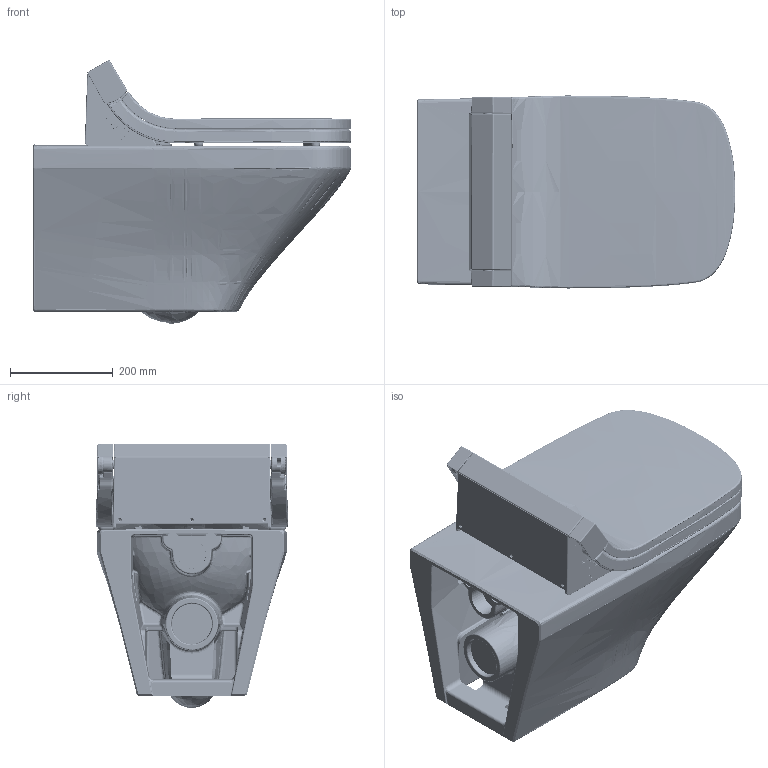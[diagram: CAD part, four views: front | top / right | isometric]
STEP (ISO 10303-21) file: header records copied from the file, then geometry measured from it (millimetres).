
FILE_DESCRIPTION((''),'2;1');
FILE_NAME('C:\Users\Administrator\Desktop\NEWS 2013 Step 2\DuraStyle Keramik Step 2\3d\stp\254259_610200.stp','2013-10-10T11:16:24',('Administrator'),(''),'Autodesk Inventor 2011','Autodesk Inventor 2011','');
FILE_SCHEMA(('CONFIG_CONTROL_DESIGN'));
Length unit declared in the file: millimetre
Products named in the file (16): 254259_610200; 254259; 610200; CASE-ASSY_ASM; BODY-CASE; DECORATIVE-COVER; 1F219-01-01; SEAT_ASM; 1F221-A0-01; 1F221-B0-01; 1F218-B0-01; INFRARED-LEFT; BUTTON-MEMBRANE; HINGE-COVER-L; HINGE-COVER-R; LID-CUSHION
Assembly tree (19 placements, depth 5):
  254259_610200
    254259
    610200
      CASE-ASSY_ASM
        BODY-CASE
        DECORATIVE-COVER
        1F219-01-01
        SEAT_ASM
          1F221-A0-01
          1F221-B0-01
          1F218-B0-01
        INFRARED-LEFT
        BUTTON-MEMBRANE
        HINGE-COVER-L
        HINGE-COVER-R
        LID-CUSHION  x2
        1F218-B0-01  x3
Bounding box: 620.16 x 375.94 x 513.94 mm (x, y, z)
Volume: 23582426.8 mm3; surface area: 2719006.9 mm2
Topology: 18 solids, 21 shells, 7346 faces, 18526 edges, 11271 vertices
Faces by surface type: bspline 2649, plane 2355, cylinder 1287, torus 475, cone 412, sphere 168
Full cylindrical faces by diameter (mm): 2 x1, 2.4 x2, 2.5 x1, 2.6 x3, 2.9 x3, 3 x1, 3.2 x3, 3.8 x4, 4 x6, 4.2 x2, 4.5 x1, 5 x4, 6 x2, 7.5 x8, 8 x11, 9 x2, 9.6 x4, 10 x3, 14.5 x2, 15.2 x2, 16 x2, 18 x3, 25 x2, 28.2 x1, 40 x2
Entity records: 459803 total; most frequent: CARTESIAN_POINT 307584, ORIENTED_EDGE 33990, DIRECTION 25223, EDGE_CURVE 16995, VERTEX_POINT 10496, AXIS2_PLACEMENT_3D 9248, EDGE_LOOP 7171, FACE_OUTER_BOUND 6801
